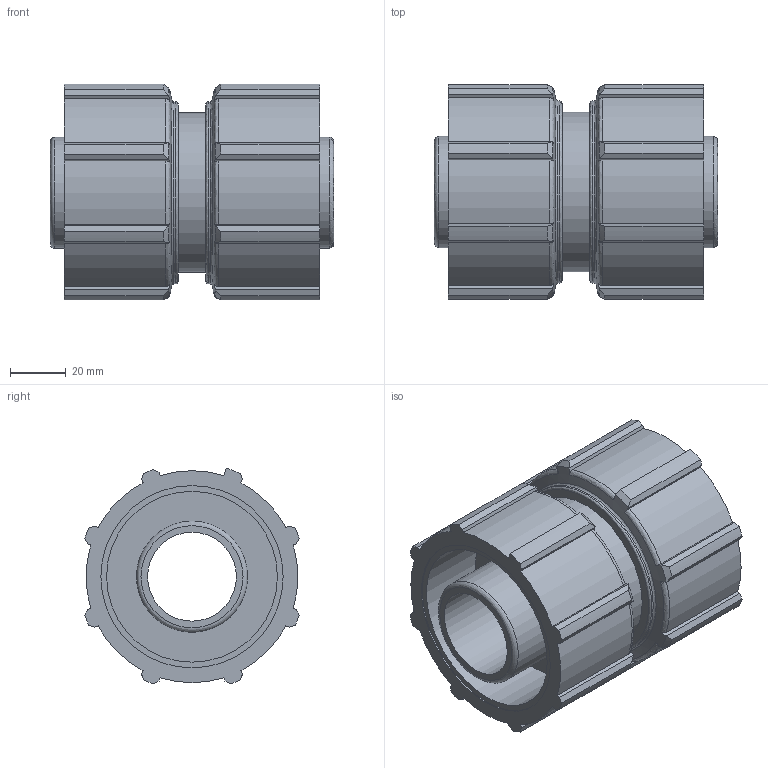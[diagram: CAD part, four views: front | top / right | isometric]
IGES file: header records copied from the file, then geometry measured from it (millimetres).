
Global section: file name: 079400040__0794060400A.ipt; native system: Autodesk Inventor 2015; preprocessor: unknown; author: KIM; date: 20180731.142053; units: millimetre
Bounding box: 102 x 77.16 x 77.68 mm (x, y, z)
Volume: 245995.4 mm3; surface area: 62612.8 mm2
Topology: 1 solids, 1 shells, 154 faces, 446 edges, 302 vertices
Faces by surface type: plane 72, cylinder 37, revolution 27, cone 18
Full cylindrical faces by diameter (mm): 40 x2, 57.4 x1, 65.6 x2
